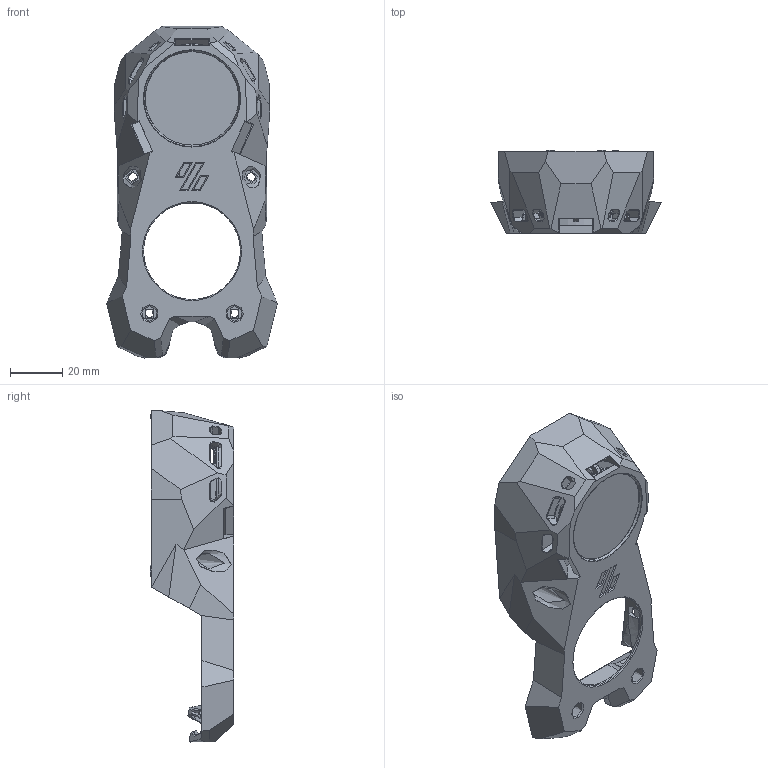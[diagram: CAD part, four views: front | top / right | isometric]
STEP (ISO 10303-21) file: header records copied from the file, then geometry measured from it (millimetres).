
FILE_DESCRIPTION(/* description */ (''),/* implementation_level */ '2;1');
FILE_NAME(/* name */ 'Stealthburner_CW2_Assembly-2 v9.step',/* time_stamp */ '2023-05-09T09:39:19+08:00',/* author */ (''),/* organization */ (''),/* preprocessor_version */ 'ST-DEVELOPER v19.2',/* originating_system */ 'Autodesk Translation Framework v12.4.0.73',/* authorisation */ '');
FILE_SCHEMA (('AUTOMOTIVE_DESIGN { 1 0 10303 214 3 1 1 }'));
Products named in the file (134): Stealthburner_CW2_Assembly-2; 外壳-改装; 无标题; ESP32S3-LCD v1; Board; Open CASCADE STEP translator 6.8 1.1.1; R17; A1; CD_A(3216) (1); LOGO?; CD_A(3216); R999; R_0402 (1); R998; R_0402 (1)_1; R_0402; LOGO? (1); U3_1; SOT23-6 (1); R5_1; R4_1; R3_1; R2_1; L1_1; NR2520 (1); C22_1; C21_1; C20_1; C19_1; X1; OSC_2025-4 (1); OSC_2025-4; LOGO?0.15 (2); R14; C31; U5; SOIC8_4P9X3P9MC_MCH; R11; C29; *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
Assembly tree (229 placements, depth 9):
  Stealthburner_CW2_Assembly-2
    外壳-改装
      无标题
        ESP32S3-LCD v1
          Board
            Open CASCADE STEP translator 6.8 1.1.1
          R17
            0402_R
          A1
            CD_A(3216) (1)
              LOGO?
              CD_A(3216)
          R999
            R_0402 (1)
              R_0402
              LOGO? (1)
          R998
            R_0402 (1)_1
              R_0402
              LOGO? (1)
          U3_1
            SOT23-6 (1)
              SOT23-5and6_Òý½Å  x6
              LOGO?0.15
              SOT23-6
          R5_1
            0402_R
          R4_1
            0402_R
          R3_1
            0402_R
          R2_1
            0402_R
          L1_1
            NR2520 (1)
              NR2520
              LOGO?0.15 (1)
          C22_1
            0603_C
          C21_1
            0603_C
          C20_1
            0402_C
          C19_1
            0402_C
          X1
            OSC_2025-4 (1)
              OSC_2025-4
              LOGO?0.15 (2)
          R14
            0402_R
          C31
            0402_C
          U5
            SOIC8_4P9X3P9MC_MCH
          R11
            0402_R
          C29
            0402_C
          *
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Bounding box: 65.14 x 31.8 x 126.8 mm (x, y, z)
Volume: 43194.6 mm3; surface area: 42185.6 mm2
Topology: 323 solids, 324 shells, 10141 faces, 25135 edges, 15629 vertices
Faces by surface type: plane 5169, cylinder 2175, bspline 1756, sphere 474, torus 473, cone 94
Full cylindrical faces by diameter (mm): 0.005 x1, 0.006 x2, 0.007 x5, 0.013 x3, 0.025 x1, 0.04 x3, 0.048 x6, 0.06 x15, 0.1 x9, 0.196 x1, 0.2 x3, 0.25 x3, 0.26 x1, 0.3 x1, 0.312 x2, 0.36 x2, 0.39 x5, 0.45 x5, 0.5 x3, 0.65 x5, 0.75 x3, 0.8 x8, 1.3 x1, 1.5 x1, 1.8 x2, 3.4 x2, 3.5 x2, 6 x4, 34 x2, 35.66 x1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
Entity records: 221860 total; most frequent: CARTESIAN_POINT 90111, ORIENTED_EDGE 27710, DIRECTION 23639, EDGE_CURVE 13855, VERTEX_POINT 8910, LINE 8089, VECTOR 8089, AXIS2_PLACEMENT_3D 7775
